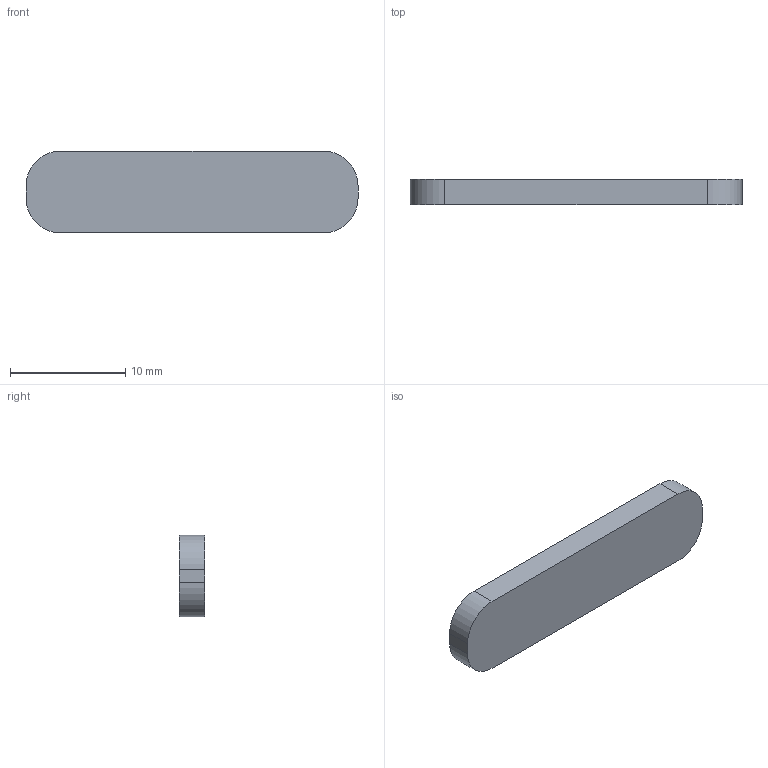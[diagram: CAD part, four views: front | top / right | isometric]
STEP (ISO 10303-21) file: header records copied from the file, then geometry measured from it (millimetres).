
FILE_DESCRIPTION(('Open CASCADE Model'),'2;1');
FILE_NAME('Open CASCADE Shape Model','2026-09-02T15:45:53',('Author'),( 'Open CASCADE'),'Open CASCADE STEP processor 7.7','Open CASCADE 7.7' ,'Unknown');
FILE_SCHEMA(('AUTOMOTIVE_DESIGN { 1 0 10303 214 1 1 1 1 }'));
Length unit declared in the file: millimetre
Products named in the file (1): Open CASCADE STEP translator 7.7 10
Bounding box: 28.8 x 2.2 x 7.1 mm (x, y, z)
Volume: 432.9 mm3; surface area: 540.1 mm2
Topology: 1 solids, 1 shells, 10 faces, 24 edges, 16 vertices
Faces by surface type: plane 6, cylinder 4
Entity records: 630 total; most frequent: CARTESIAN_POINT 123, DIRECTION 98, LINE 56, VECTOR 56, ORIENTED_EDGE 48, PCURVE 48, DEFINITIONAL_REPRESENTATION 48, EDGE_CURVE 24
